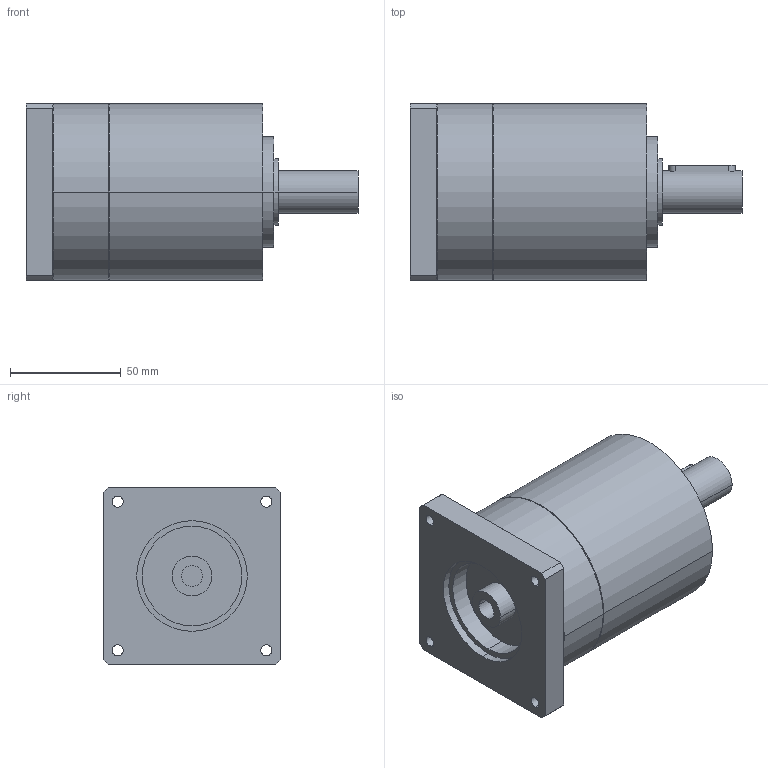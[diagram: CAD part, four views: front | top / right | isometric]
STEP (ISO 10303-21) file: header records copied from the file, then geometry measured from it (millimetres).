
FILE_DESCRIPTION(('CoCreate Modeling STEP Export'),'2;1');
FILE_NAME('GPR100_ig-3-4-5-6_19_B14_9.52_P21.stp','2014-08-26T10:09:51',(''),(''),'CoCreate Modeling STEP processor for AP214 (Solid Model)','CoCreate Modeling 16.00C 25-Feb-2009 (C) Parametric Technology GmbH','');
FILE_SCHEMA(('AUTOMOTIVE_DESIGN { 1 0 10303 214 1 1 1 1 }'));
Length unit declared in the file: millimetre
Products named in the file (2): GPR100_ig-3-4-5-6_19_B14_9.52_P21
Assembly tree (1 placements, depth 2):
  GPR100_ig-3-4-5-6_19_B14_9.52_P21
    GPR100_ig-3-4-5-6_19_B14_9.52_P21
Bounding box: 150 x 80 x 80 mm (x, y, z)
Volume: 552878.1 mm3; surface area: 49264.6 mm2
Topology: 1 solids, 1 shells, 70 faces, 184 edges, 128 vertices
Faces by surface type: cylinder 42, plane 22, cone 6
Entity records: 1919 total; most frequent: ORIENTED_EDGE 364, CARTESIAN_POINT 356, DIRECTION 262, EDGE_CURVE 182, VERTEX_POINT 128, AXIS2_PLACEMENT_3D 98, EDGE_LOOP 92, FACE_OUTER_BOUND 70
